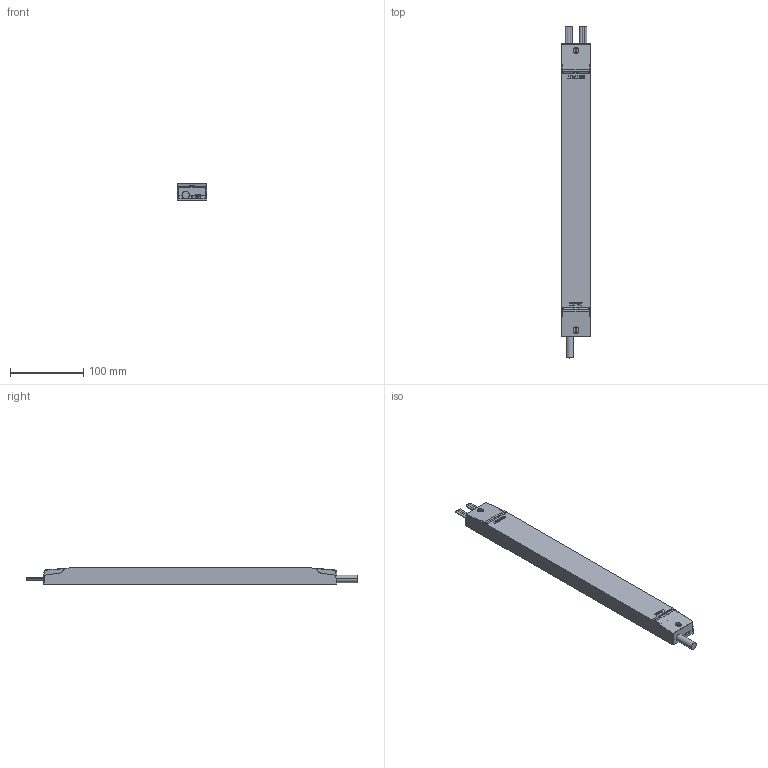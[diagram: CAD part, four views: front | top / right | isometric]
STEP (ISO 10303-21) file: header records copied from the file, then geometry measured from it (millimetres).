
FILE_DESCRIPTION((''),'2;1');
FILE_NAME('R16_ASM','2020-05-26T',('Administrator'),(''),'PRO/ENGINEER BY PARAMETRIC TECHNOLOGY CORPORATION, 2009440','PRO/ENGINEER BY PARAMETRIC TECHNOLOGY CORPORATION, 2009440','');
FILE_SCHEMA(('AUTOMOTIVE_DESIGN_CC2 { 1 2 10303 214 -1 1 5 2 }'));
Products named in the file (7): MANIFOLD_SOLID_BREP_2007_; MANIFOLD_SOLID_BREP_2008_; MANIFOLD_SOLID_BREP_2009_; MANIFOLD_SOLID_BREP_2010_; 10-1; 3X3X; R16_ASM
Assembly tree (7 placements, depth 2):
  R16_ASM
    MANIFOLD_SOLID_BREP_2007_
    MANIFOLD_SOLID_BREP_2008_
    MANIFOLD_SOLID_BREP_2009_
    MANIFOLD_SOLID_BREP_2010_
    10-1
    3X3X  x2
Bounding box: 40 x 452.7 x 22.01 mm (x, y, z)
Volume: 91483.3 mm3; surface area: 122620.1 mm2
Topology: 11 solids, 11 shells, 2158 faces, 6250 edges, 4165 vertices
Faces by surface type: plane 1415, cylinder 472, extrusion 139, bspline 70, cone 38, sphere 24
Entity records: 92559 total; most frequent: CARTESIAN_POINT 22727, ORIENTED_EDGE 12456, DIRECTION 9069, EDGE_CURVE 6228, PRESENTATION_STYLE_ASSIGNMENT 5270, STYLED_ITEM 5265, CURVE_STYLE 5262, VECTOR 4563
